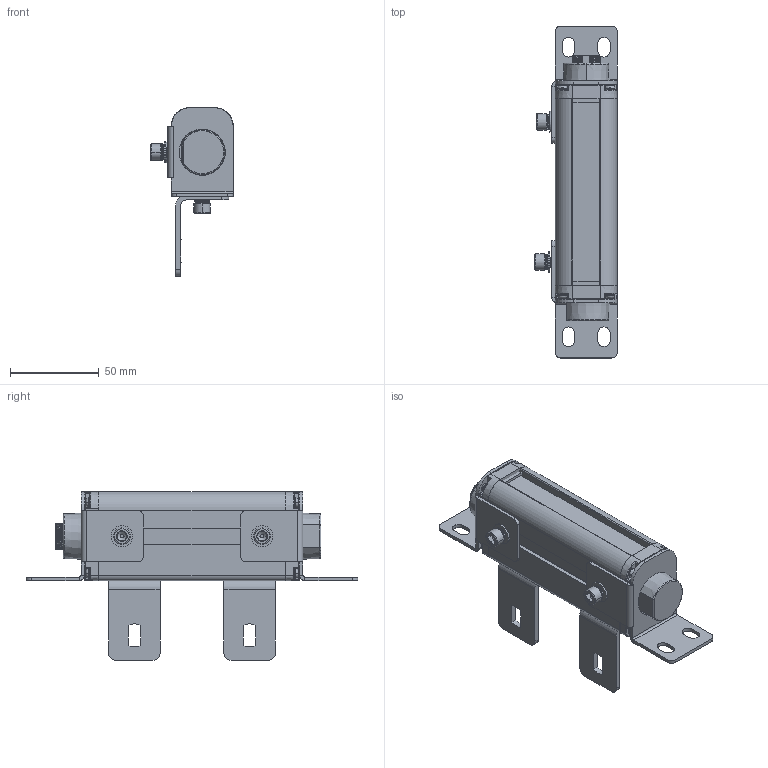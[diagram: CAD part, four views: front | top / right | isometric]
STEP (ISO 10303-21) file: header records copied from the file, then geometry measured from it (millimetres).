
FILE_DESCRIPTION((''),'2;1');
FILE_NAME('ESN--000_ASM','2021-08-10T16:36:37',('18720616900'),(''),'CREO PARAMETRIC BY PTC INC, 2019010','CREO PARAMETRIC BY PTC INC, 2019010','');
FILE_SCHEMA(('CONFIG_CONTROL_DESIGN'));
Products named in the file (22): 00; 000; _0002; _0003; _0004; 5000; 5--0001; ESN_50001_ASM; ST-3-120001; L10001; M6-8--0001; M6-1--00; M6-1-00; M6-80001_ASM; L1--0001_ASM; H1--000; H1--0003_ASM; H1--0001_ASM; ESN--000_ASM
Assembly tree (35 placements, depth 4):
  ESN--000_ASM
    00
    000
    _0002
    _0003
    _0004
    000
    ESN_50001_ASM
      5000
      5--0001  x5
    ST-3-120001  x8
    L1--0001_ASM  x2
      L10001
      M6-80001_ASM
        M6-8--0001
        M6-1--00
        M6-1-00
        00
    H1--0003_ASM
      H1--000
      M6-80001_ASM
        M6-8--0001
        M6-1--00
        M6-1-00
        00
    H1--0001_ASM
      H1--000
      M6-80001_ASM
        M6-8--0001
        M6-1--00
        M6-1-00
        00
Bounding box: 46.5 x 187 x 94.95 mm (x, y, z)
Volume: 214955.8 mm3; surface area: 83077.3 mm2
Topology: 40 solids, 40 shells, 1785 faces, 4708 edges, 3012 vertices
Faces by surface type: plane 583, cylinder 416, bspline 362, cone 291, torus 107, sphere 26
Entity records: 48222 total; most frequent: CARTESIAN_POINT 24957, ORIENTED_EDGE 5136, DIRECTION 4189, EDGE_CURVE 2568, VERTEX_POINT 1669, AXIS2_PLACEMENT_3D 1488, VECTOR 1213, LINE 1213
